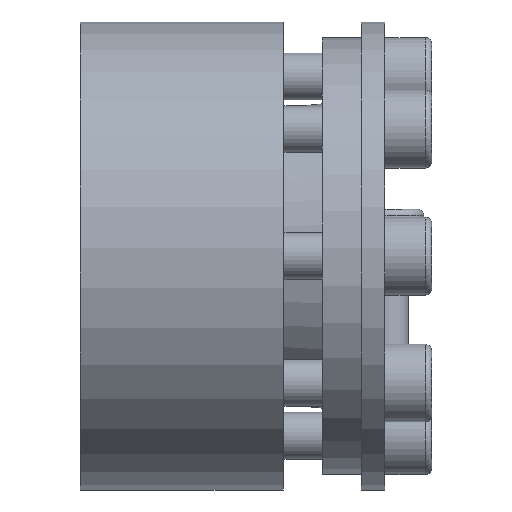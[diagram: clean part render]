
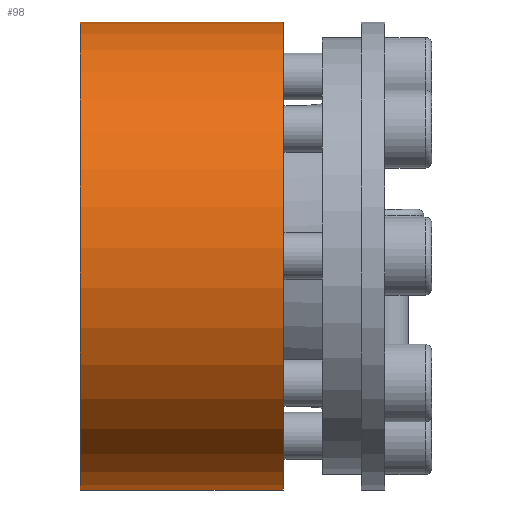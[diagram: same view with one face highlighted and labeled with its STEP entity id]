
A CAD part, left-side view. The second image highlights one B-rep face of the part: STEP entity #98.
In plain terms, the highlighted cylindrical face has radius 30 mm (diameter 60 mm), a partial arc.
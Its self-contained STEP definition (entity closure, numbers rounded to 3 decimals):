
#98 = ADVANCED_FACE( '', ( #225 ), #226, .T. );
#225 = FACE_OUTER_BOUND( '', #393, .T. );
#226 = CYLINDRICAL_SURFACE( '', #394, 30. );
#393 = EDGE_LOOP( '', ( #636, #637, #638, #639 ) );
#394 = AXIS2_PLACEMENT_3D( '', #640, #641, #642 );
#636 = ORIENTED_EDGE( '', *, *, #899, .F. );
#637 = ORIENTED_EDGE( '', *, *, #872, .T. );
#638 = ORIENTED_EDGE( '', *, *, #902, .T. );
#639 = ORIENTED_EDGE( '', *, *, #903, .T. );
#640 = CARTESIAN_POINT( '', ( 0., -60., 0. ) );
#641 = DIRECTION( '', ( 0., 1., 0. ) );
#642 = DIRECTION( '', ( 0., 0., -1. ) );
#872 = EDGE_CURVE( '', #1057, #1055, #1058, .F. );
#899 = EDGE_CURVE( '', #1057, #1102, #1103, .T. );
#902 = EDGE_CURVE( '', #1055, #1106, #1107, .T. );
#903 = EDGE_CURVE( '', #1106, #1102, #1108, .T. );
#1055 = VERTEX_POINT( '', #1365 );
#1057 = VERTEX_POINT( '', #1368 );
#1058 = LINE( '', #1369, #1370 );
#1102 = VERTEX_POINT( '', #1423 );
#1103 = CIRCLE( '', #1424, 30. );
#1106 = VERTEX_POINT( '', #1428 );
#1107 = CIRCLE( '', #1429, 30. );
#1108 = LINE( '', #1430, #1431 );
#1365 = CARTESIAN_POINT( '', ( 10.924, 39., 27.94 ) );
#1368 = CARTESIAN_POINT( '', ( 10.924, 13., 27.94 ) );
#1369 = CARTESIAN_POINT( '', ( 10.924, -60., 27.94 ) );
#1370 = VECTOR( '', #1580, 1000. );
#1423 = CARTESIAN_POINT( '', ( 12.033, 13., 27.481 ) );
#1424 = AXIS2_PLACEMENT_3D( '', #1626, #1627, #1628 );
#1428 = CARTESIAN_POINT( '', ( 12.033, 39., 27.481 ) );
#1429 = AXIS2_PLACEMENT_3D( '', #1630, #1631, #1632 );
#1430 = CARTESIAN_POINT( '', ( 12.033, -60., 27.481 ) );
#1431 = VECTOR( '', #1633, 1000. );
#1580 = DIRECTION( '', ( 0., -1., 0. ) );
#1626 = CARTESIAN_POINT( '', ( 0., 13., 0. ) );
#1627 = DIRECTION( '', ( 0., -1., 0. ) );
#1628 = DIRECTION( '', ( 0., 0., -1. ) );
#1630 = CARTESIAN_POINT( '', ( 0., 39., 0. ) );
#1631 = DIRECTION( '', ( 0., -1., 0. ) );
#1632 = DIRECTION( '', ( 0., 0., -1. ) );
#1633 = DIRECTION( '', ( 0., -1., 0. ) );
